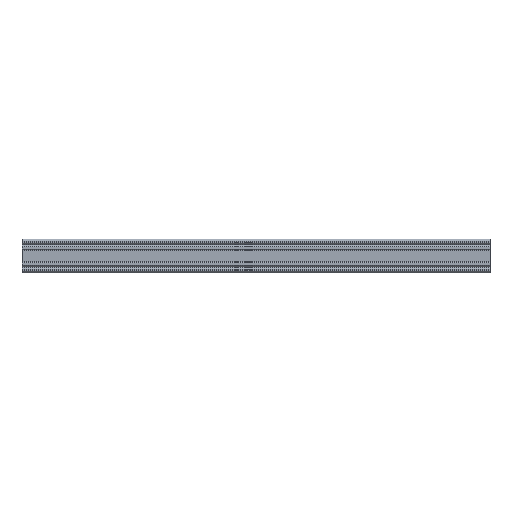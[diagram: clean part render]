
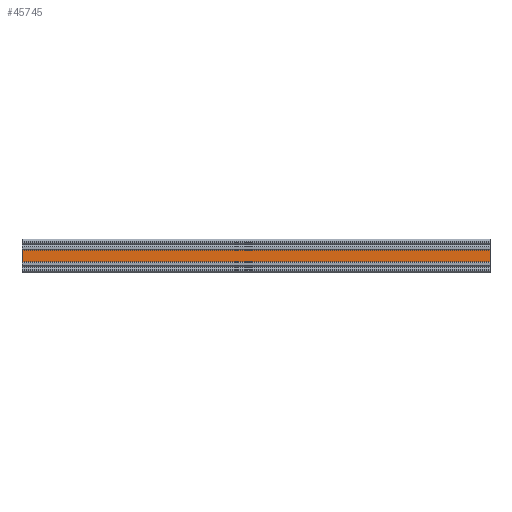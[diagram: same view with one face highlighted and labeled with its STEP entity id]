
A CAD part, left-side view. The second image highlights one B-rep face of the part: STEP entity #45745.
In plain terms, the highlighted planar face has unit normal (-1, 0, 0).
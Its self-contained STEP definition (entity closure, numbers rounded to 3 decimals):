
#1871 = CARTESIAN_POINT ( 'NONE',  ( -8., 0., 5.525 ) ) ;
#2226 = CARTESIAN_POINT ( 'NONE',  ( -8., 0., 5.525 ) ) ;
#3869 = LINE ( 'NONE', #44211, #43386 ) ;
#8178 = CARTESIAN_POINT ( 'NONE',  ( -8., 336., 5.525 ) ) ;
#8509 = CARTESIAN_POINT ( 'NONE',  ( -8., 0., -5.525 ) ) ;
#9370 = VERTEX_POINT ( 'NONE', #11516 ) ;
#10232 = PLANE ( 'NONE',  #32807 ) ;
#10303 = VECTOR ( 'NONE', #50734, 1000. ) ;
#10804 = CARTESIAN_POINT ( 'NONE',  ( -8., 0., -5.525 ) ) ;
#11516 = CARTESIAN_POINT ( 'NONE',  ( -8., 0., 5.525 ) ) ;
#12070 = FACE_OUTER_BOUND ( 'NONE', #34960, .T. ) ;
#12568 = EDGE_CURVE ( 'NONE', #9370, #22380, #49665, .T. ) ;
#14883 = VERTEX_POINT ( 'NONE', #8509 ) ;
#14978 = EDGE_CURVE ( 'NONE', #22380, #18698, #3869, .T. ) ;
#16810 = DIRECTION ( 'NONE',  ( 0., 0., -1. ) ) ;
#17516 = CARTESIAN_POINT ( 'NONE',  ( -8., 0., 5.525 ) ) ;
#18698 = VERTEX_POINT ( 'NONE', #39072 ) ;
#19986 = VECTOR ( 'NONE', #45242, 1000. ) ;
#20134 = EDGE_CURVE ( 'NONE', #14883, #18698, #31861, .T. ) ;
#20689 = VECTOR ( 'NONE', #45729, 1000. ) ;
#21957 = DIRECTION ( 'NONE',  ( 1., 0., 0. ) ) ;
#22380 = VERTEX_POINT ( 'NONE', #8178 ) ;
#23767 = EDGE_CURVE ( 'NONE', #9370, #14883, #34827, .T. ) ;
#28093 = ORIENTED_EDGE ( 'NONE', *, *, #12568, .T. ) ;
#31861 = LINE ( 'NONE', #10804, #10303 ) ;
#32807 = AXIS2_PLACEMENT_3D ( 'NONE', #2226, #21957, #38307 ) ;
#34827 = LINE ( 'NONE', #17516, #19986 ) ;
#34960 = EDGE_LOOP ( 'NONE', ( #43274, #47100, #37298, #28093 ) ) ;
#37298 = ORIENTED_EDGE ( 'NONE', *, *, #23767, .F. ) ;
#38307 = DIRECTION ( 'NONE',  ( 0., 0., -1. ) ) ;
#39072 = CARTESIAN_POINT ( 'NONE',  ( -8., 336., -5.525 ) ) ;
#43274 = ORIENTED_EDGE ( 'NONE', *, *, #14978, .T. ) ;
#43386 = VECTOR ( 'NONE', #16810, 1000. ) ;
#44211 = CARTESIAN_POINT ( 'NONE',  ( -8., 336., 5.525 ) ) ;
#45242 = DIRECTION ( 'NONE',  ( 0., 0., -1. ) ) ;
#45729 = DIRECTION ( 'NONE',  ( 0., 1., 0. ) ) ;
#45745 = ADVANCED_FACE ( 'NONE', ( #12070 ), #10232, .F. ) ;
#47100 = ORIENTED_EDGE ( 'NONE', *, *, #20134, .F. ) ;
#49665 = LINE ( 'NONE', #1871, #20689 ) ;
#50734 = DIRECTION ( 'NONE',  ( 0., 1., 0. ) ) ;
